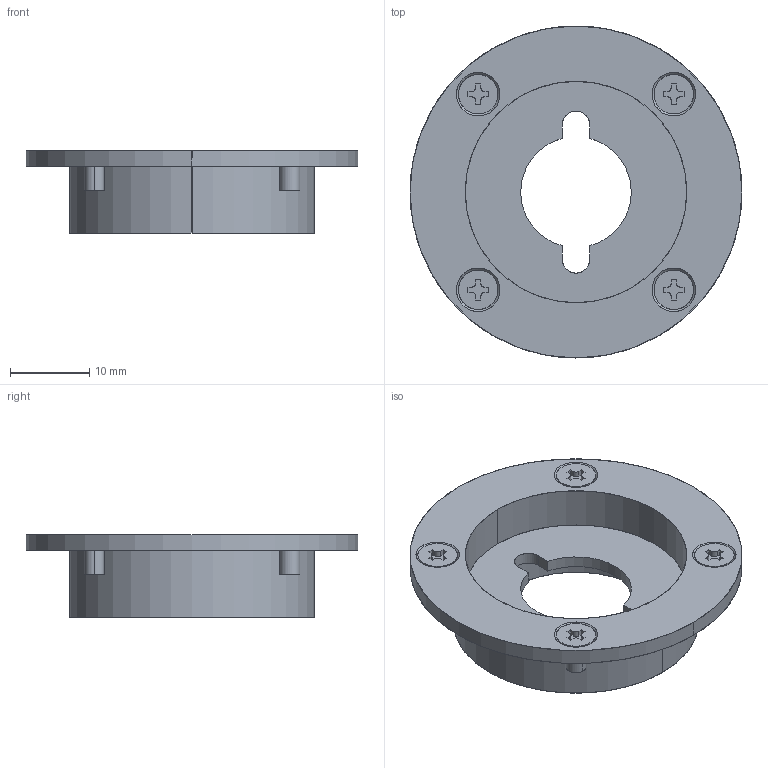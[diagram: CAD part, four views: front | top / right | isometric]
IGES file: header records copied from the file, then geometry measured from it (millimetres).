
Start section: SolidWorks IGES file using analytic representation for surfaces
Global section: file name: X:\14_SW2022-Inv2022\XX_2024-05新製品(フラットクランパー)\データ\QCFC0639-B-SUS\QCFC0639-B-SUS.IGS; native system: SolidWorks 2022; preprocessor: SolidWorks 2022; author: ImaoCorp; date: 240306.111140; units: millimetre
Bounding box: 42 x 42 x 10.5 mm (x, y, z)
Surface area: 4504.5 mm2 (no closed solid volume)
Topology: 0 solids, 0 shells, 138 faces, 1824 edges, 1824 vertices
Faces by surface type: revolution 69, bspline 69
